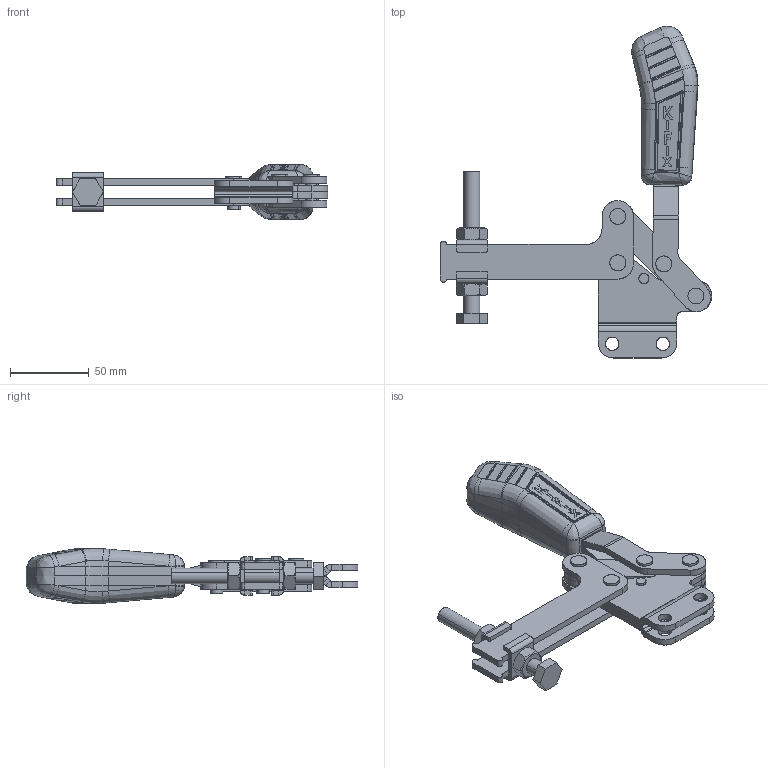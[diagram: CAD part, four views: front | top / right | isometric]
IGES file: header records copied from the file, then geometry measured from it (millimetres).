
Start section: SolidWorks IGES file using analytic representation for surfaces
Global section: file name: G:\Grampos\KF-631\KF-631 RL\KF-631 RL.IGS; native system: SolidWorks 2018; preprocessor: SolidWorks 2018; author: Ricardo.Sandi; date: 181129.162340; units: millimetre
Bounding box: 172 x 210.43 x 35.04 mm (x, y, z)
Surface area: 79225 mm2 (no closed solid volume)
Topology: 0 solids, 0 shells, 729 faces, 8161 edges, 8139 vertices
Faces by surface type: bspline 455, revolution 274
